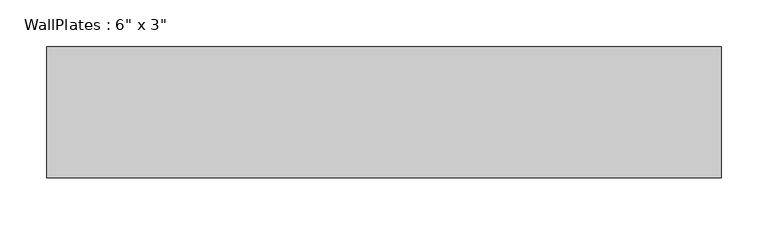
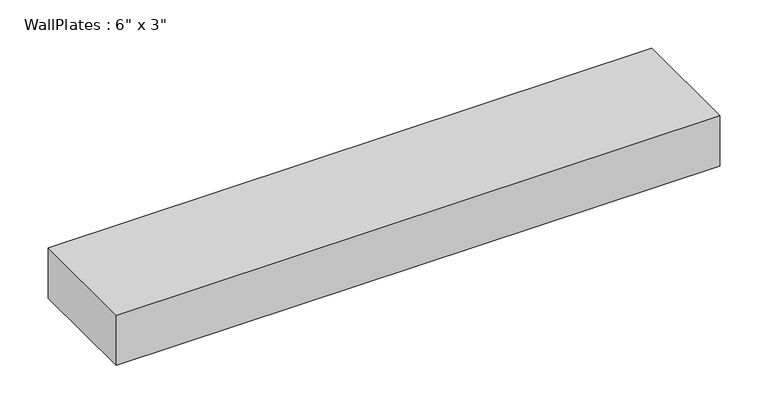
"""IFC4 building model written with IfcOpenShell, lengths in millimetres: beam geometry."""

from ifc_helpers import new_model, si_unit, frame, origin, place, context, project, spatial, polyline, outline, extrude, source, transform, mapped, element, save


def beam_466d3d54(model_context):
    return source(origin(), model_context, "Body", "SweptSolid", [
        extrude(outline(polyline([(-359.6336784, -69.85), (-359.6336784, 69.85), (359.6336784, 69.85), (359.6336784, -69.85), (-359.6336784, -69.85)])), frame((0.0, 0.0, -31.75), z_axis=(0.0, 0.0, 1.0), x_axis=(1.0, 0.0, 0.0)), (0.0, 0.0, 1.0), 63.5),
    ])


if __name__ == "__main__":
    model = new_model("IFC4")
    model_context = context("Model", 3, world=origin())
    ifc_project = project(units=[si_unit("LENGTHUNIT", "METRE", prefix="MILLI")], contexts=[model_context])
    site = spatial("IfcSite", under=ifc_project)
    building = spatial("IfcBuilding", under=site)
    placement = place(None, origin())
    beam_shape = beam_466d3d54(model_context)
    element("IfcBeam", 1, ObjectType="WallPlates : 6\" x 3\"", at=placement, inside=building, context=model_context, shape_type="MappedRepresentation", body=[
        mapped(beam_shape, transform((0.0, 0.0, 0.0), x_axis=(1.0, 0.0, 0.0), y_axis=(0.0, 1.0, 0.0), z_axis=(0.0, 0.0, 1.0))),
    ])
    save(model, "model.ifc")
